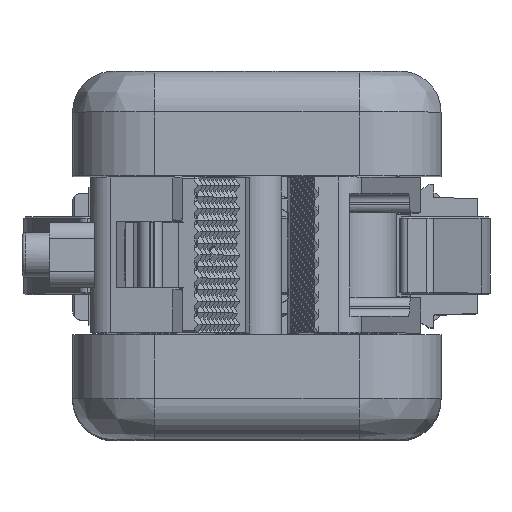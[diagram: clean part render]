
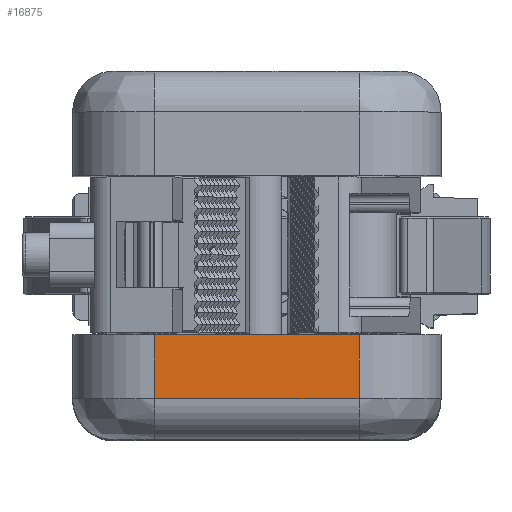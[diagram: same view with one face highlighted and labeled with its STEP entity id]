
A CAD part, top view. The second image highlights one B-rep face of the part: STEP entity #16875.
In plain terms, the highlighted planar face has unit normal (0, 0, 1).
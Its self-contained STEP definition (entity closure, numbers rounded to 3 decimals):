
#333=LINE('',#40413,#2466);
#334=LINE('',#40416,#2467);
#335=LINE('',#40418,#2468);
#336=LINE('',#40420,#2469);
#2466=VECTOR('',#33961,1.);
#2467=VECTOR('',#33962,1.);
#2468=VECTOR('',#33963,1.);
#2469=VECTOR('',#33964,1.);
#4518=FACE_OUTER_BOUND('',#19676,.T.);
#15768=PLANE('',#31674);
#16875=ADVANCED_FACE('',(#4518),#15768,.F.);
#19676=EDGE_LOOP('',(#21542,#21543,#21544,#21545));
#21542=ORIENTED_EDGE('',*,*,#28854,.T.);
#21543=ORIENTED_EDGE('',*,*,#28855,.T.);
#21544=ORIENTED_EDGE('',*,*,#28856,.T.);
#21545=ORIENTED_EDGE('',*,*,#28857,.T.);
#27174=VERTEX_POINT('',#40414);
#27175=VERTEX_POINT('',#40415);
#27176=VERTEX_POINT('',#40417);
#27177=VERTEX_POINT('',#40419);
#28854=EDGE_CURVE('',#27174,#27175,#333,.T.);
#28855=EDGE_CURVE('',#27175,#27176,#334,.T.);
#28856=EDGE_CURVE('',#27176,#27177,#335,.T.);
#28857=EDGE_CURVE('',#27177,#27174,#336,.T.);
#31674=AXIS2_PLACEMENT_3D('',#40421,#33965,#33966);
#33961=DIRECTION('',(1.,0.,0.));
#33962=DIRECTION('',(0.,1.,0.));
#33963=DIRECTION('',(-1.,0.,0.));
#33964=DIRECTION('',(0.,-1.,0.));
#33965=DIRECTION('',(0.,0.,-1.));
#33966=DIRECTION('',(1.,0.,0.));
#40413=CARTESIAN_POINT('',(22.5,-17.5,203.));
#40414=CARTESIAN_POINT('',(-12.5,-17.5,203.));
#40415=CARTESIAN_POINT('',(12.5,-17.5,203.));
#40416=CARTESIAN_POINT('',(12.5,-22.5,203.));
#40417=CARTESIAN_POINT('',(12.5,-9.7,203.));
#40418=CARTESIAN_POINT('',(-22.5,-9.7,203.));
#40419=CARTESIAN_POINT('',(-12.5,-9.7,203.));
#40420=CARTESIAN_POINT('',(-12.5,-22.5,203.));
#40421=CARTESIAN_POINT('',(-22.5,-22.5,203.));
